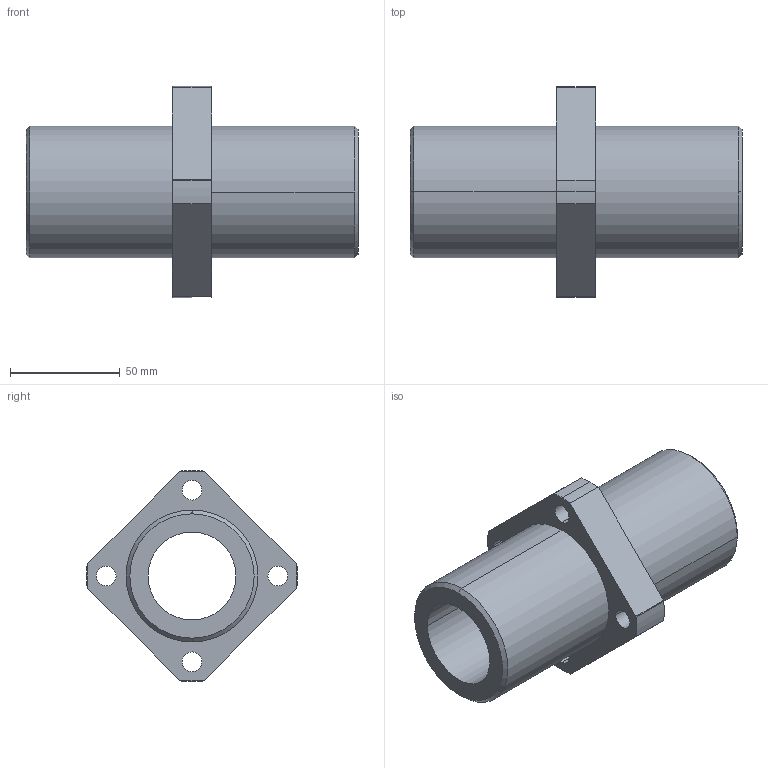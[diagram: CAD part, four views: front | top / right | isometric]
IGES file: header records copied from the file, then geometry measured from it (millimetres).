
Start section: 3D InterOp IGES (Version 21 0 1), Spatial Corp. Copyright (c) 1999-2007.
Global section: file name: CFPJ40.igs; native system: Spatial Corp.; preprocessor: 3D InterOp GENERIC/IGES 3.0; author: Noname; organization: Noname; date: 20220324.125808; units: millimetre
Bounding box: 151 x 95.93 x 96 mm (x, y, z)
Surface area: 59284 mm2 (no closed solid volume)
Topology: 0 solids, 0 shells, 53 faces, 264 edges, 264 vertices
Faces by surface type: revolution 41, extrusion 12
